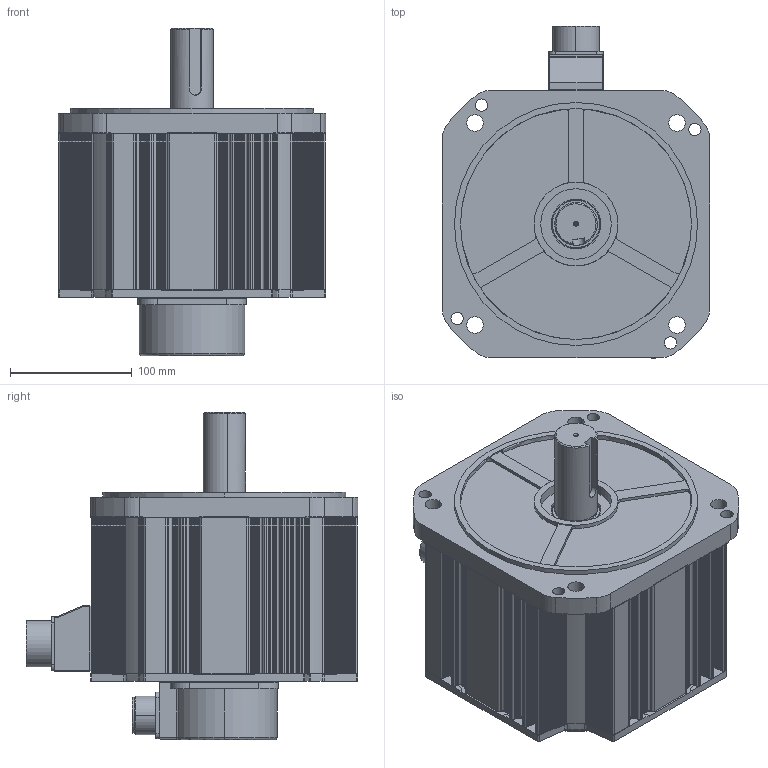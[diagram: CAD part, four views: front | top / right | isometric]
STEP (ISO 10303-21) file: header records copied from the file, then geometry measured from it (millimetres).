
FILE_DESCRIPTION (( 'STEP AP203' ), '1' );
FILE_NAME ('KANF-45G¡à9B2.STEP', '2026-09-12T00:53:21', ( '' ), ( '' ), 'SwSTEP 2.0', 'SolidWorks 2023', '' );
FILE_SCHEMA (( 'CONFIG_CONTROL_DESIGN' ));
Length unit declared in the file: millimetre
Products named in the file (11): MS3102A 20-29P; □220 FLANGE; □220 BRACKET_BR; KANF-45G□9B2; Ø35-KEY10X50; MS3102A 24-11P_표준; □220-131.0mm(4.5kW,BR); 10050908 CONNECTOR BOX_MS22 or MS24; 1005053102 ENCODER COVER; 10050907 RUBBER SEAL_MS22 or MS24; 10050532 GASKET_미돌출형
Assembly tree (10 placements, depth 2):
  KANF-45G□9B2
    □220 FLANGE
    □220 BRACKET_BR
    10050532 GASKET_미돌출형
    1005053102 ENCODER COVER
    MS3102A 20-29P
    10050907 RUBBER SEAL_MS22 or MS24
    10050908 CONNECTOR BOX_MS22 or MS24
    MS3102A 24-11P_표준
    Ø35-KEY10X50
    □220-131.0mm(4.5kW,BR)
Bounding box: 220 x 273.12 x 269.5 mm (x, y, z)
Volume: 1796282.1 mm3; surface area: 609310.2 mm2
Topology: 10 solids, 10 shells, 2020 faces, 5772 edges, 3812 vertices
Faces by surface type: plane 1184, cylinder 732, cone 54, bspline 35, torus 13, sphere 2
Entity records: 68895 total; most frequent: CARTESIAN_POINT 13760, ORIENTED_EDGE 11492, DIRECTION 11204, EDGE_CURVE 5746, VECTOR 3982, LINE 3982, VERTEX_POINT 3812, AXIS2_PLACEMENT_3D 3611
